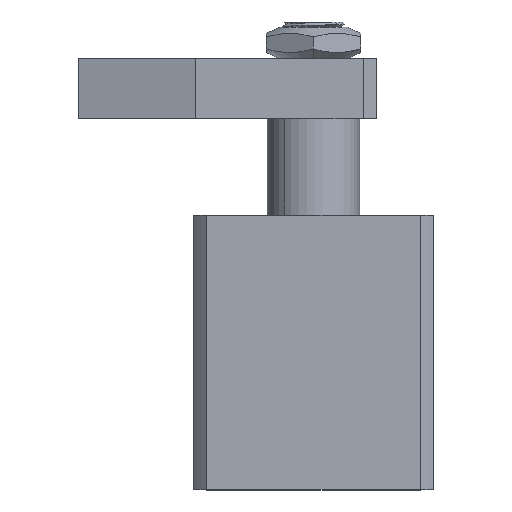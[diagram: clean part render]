
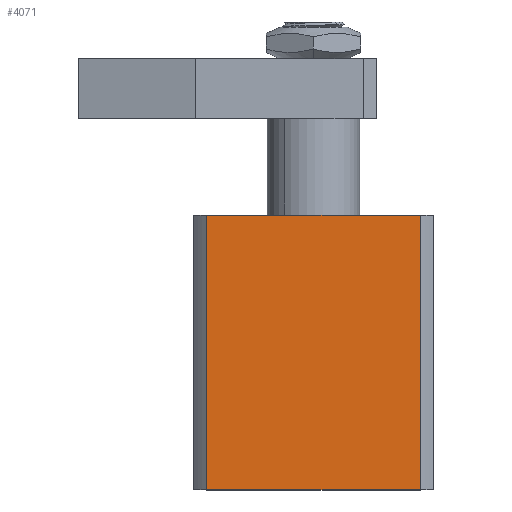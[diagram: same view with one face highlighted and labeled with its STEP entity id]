
A CAD part, top view. The second image highlights one B-rep face of the part: STEP entity #4071.
In plain terms, the highlighted planar face has unit normal (0, 0, 1).
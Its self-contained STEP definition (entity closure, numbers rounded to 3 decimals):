
#1133 = VERTEX_POINT ( 'NONE', #12828 ) ;
#1175 = EDGE_CURVE ( 'NONE', #1133, #7268, #22548, .T. ) ;
#1258 = ORIENTED_EDGE ( 'NONE', *, *, #1175, .T. ) ;
#2115 = CARTESIAN_POINT ( 'NONE',  ( 86.82, 0., 0. ) ) ;
#2964 = CARTESIAN_POINT ( 'NONE',  ( 5.18, 105., 0. ) ) ;
#3707 = LINE ( 'NONE', #2964, #8463 ) ;
#4071 = ADVANCED_FACE ( 'NONE', ( #19241 ), #5612, .F. ) ;
#4767 = EDGE_CURVE ( 'NONE', #8709, #7268, #19782, .T. ) ;
#5143 = ORIENTED_EDGE ( 'NONE', *, *, #7405, .T. ) ;
#5612 = PLANE ( 'NONE',  #20152 ) ;
#7268 = VERTEX_POINT ( 'NONE', #2115 ) ;
#7388 = DIRECTION ( 'NONE',  ( -1., 0., 0. ) ) ;
#7405 = EDGE_CURVE ( 'NONE', #21520, #1133, #3707, .T. ) ;
#7843 = ORIENTED_EDGE ( 'NONE', *, *, #4767, .F. ) ;
#8463 = VECTOR ( 'NONE', #15489, 1000. ) ;
#8709 = VERTEX_POINT ( 'NONE', #9349 ) ;
#8793 = EDGE_CURVE ( 'NONE', #21520, #8709, #12936, .T. ) ;
#9246 = DIRECTION ( 'NONE',  ( 1., 0., 0. ) ) ;
#9349 = CARTESIAN_POINT ( 'NONE',  ( 86.82, 105., 0. ) ) ;
#12828 = CARTESIAN_POINT ( 'NONE',  ( 5.18, 0., 0. ) ) ;
#12936 = LINE ( 'NONE', #13533, #17703 ) ;
#13533 = CARTESIAN_POINT ( 'NONE',  ( 5.18, 105., 0. ) ) ;
#14521 = CARTESIAN_POINT ( 'NONE',  ( 5.18, 105., 0. ) ) ;
#15024 = VECTOR ( 'NONE', #17839, 1000. ) ;
#15342 = DIRECTION ( 'NONE',  ( 1., 0., 0. ) ) ;
#15489 = DIRECTION ( 'NONE',  ( 0., -1., 0. ) ) ;
#15946 = EDGE_LOOP ( 'NONE', ( #1258, #7843, #16251, #5143 ) ) ;
#16047 = CARTESIAN_POINT ( 'NONE',  ( 86.82, 105., 0. ) ) ;
#16251 = ORIENTED_EDGE ( 'NONE', *, *, #8793, .F. ) ;
#17703 = VECTOR ( 'NONE', #15342, 1000. ) ;
#17789 = VECTOR ( 'NONE', #9246, 1000. ) ;
#17839 = DIRECTION ( 'NONE',  ( 0., -1., 0. ) ) ;
#18109 = DIRECTION ( 'NONE',  ( 0., 0., -1. ) ) ;
#18146 = CARTESIAN_POINT ( 'NONE',  ( 5.18, 0., 0. ) ) ;
#19241 = FACE_OUTER_BOUND ( 'NONE', #15946, .T. ) ;
#19782 = LINE ( 'NONE', #16047, #15024 ) ;
#20152 = AXIS2_PLACEMENT_3D ( 'NONE', #14521, #18109, #7388 ) ;
#21520 = VERTEX_POINT ( 'NONE', #22230 ) ;
#22230 = CARTESIAN_POINT ( 'NONE',  ( 5.18, 105., 0. ) ) ;
#22548 = LINE ( 'NONE', #18146, #17789 ) ;
